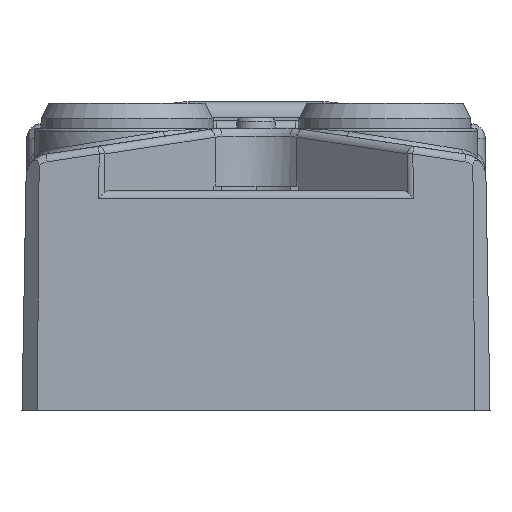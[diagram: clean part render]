
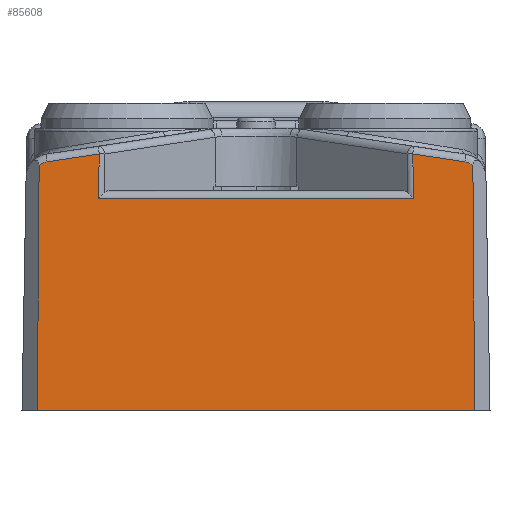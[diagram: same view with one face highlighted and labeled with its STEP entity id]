
A CAD part, front view. The second image highlights one B-rep face of the part: STEP entity #85608.
In plain terms, the highlighted planar face has unit normal (0, -1, 0.018).
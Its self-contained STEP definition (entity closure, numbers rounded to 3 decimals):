
#766 = CARTESIAN_POINT ( 'NONE',  ( -10.08, -32.983, 12.709 ) ) ;
#1306 = CARTESIAN_POINT ( 'NONE',  ( -13.874, -32.946, 14.811 ) ) ;
#4108 = LINE ( 'NONE', #37944, #82244 ) ;
#5079 = CARTESIAN_POINT ( 'NONE',  ( -13.359, -32.942, 15.052 ) ) ;
#6589 = CARTESIAN_POINT ( 'NONE',  ( 13.987, -33.219, -0.85 ) ) ;
#7695 = EDGE_CURVE ( 'NONE', #16056, #29733, #67330, .T. ) ;
#8063 = CARTESIAN_POINT ( 'NONE',  ( 10.08, -32.983, 12.709 ) ) ;
#9431 = DIRECTION ( 'NONE',  ( 0., -1., 0.017 ) ) ;
#11117 = ORIENTED_EDGE ( 'NONE', *, *, #7695, .T. ) ;
#11790 = B_SPLINE_CURVE_WITH_KNOTS ( 'NONE', 3,
 ( #45455, #25671, #72945, #5079 ),
 .UNSPECIFIED., .F., .F.,
 ( 4, 4 ),
 ( 0., 1. ),
 .UNSPECIFIED. ) ;
#12606 = EDGE_CURVE ( 'NONE', #58124, #27440, #50941, .T. ) ;
#12611 = FACE_OUTER_BOUND ( 'NONE', #72901, .T. ) ;
#12894 = CARTESIAN_POINT ( 'NONE',  ( 0., -33.219, -0.85 ) ) ;
#12983 = VERTEX_POINT ( 'NONE', #8063 ) ;
#14296 = B_SPLINE_CURVE_WITH_KNOTS ( 'NONE', 3,
 ( #63048, #23157, #30547, #23444 ),
 .UNSPECIFIED., .F., .F.,
 ( 4, 4 ),
 ( 0., 1. ),
 .UNSPECIFIED. ) ;
#15518 = CARTESIAN_POINT ( 'NONE',  ( -10.08, -32.983, 12.709 ) ) ;
#15628 = CARTESIAN_POINT ( 'NONE',  ( 14.155, -32.931, 15.657 ) ) ;
#15707 = ORIENTED_EDGE ( 'NONE', *, *, #76639, .T. ) ;
#16056 = VERTEX_POINT ( 'NONE', #42718 ) ;
#16653 = LINE ( 'NONE', #82905, #67346 ) ;
#16663 = ORIENTED_EDGE ( 'NONE', *, *, #73679, .T. ) ;
#16736 = VERTEX_POINT ( 'NONE', #1306 ) ;
#18577 = ORIENTED_EDGE ( 'NONE', *, *, #74724, .F. ) ;
#19537 = ORIENTED_EDGE ( 'NONE', *, *, #62516, .F. ) ;
#20490 = DIRECTION ( 'NONE',  ( 1., 0., 0. ) ) ;
#23157 = CARTESIAN_POINT ( 'NONE',  ( 13.549, -32.942, 15.023 ) ) ;
#23218 = VECTOR ( 'NONE', #20490, 1000. ) ;
#23444 = CARTESIAN_POINT ( 'NONE',  ( 13.874, -32.946, 14.811 ) ) ;
#24343 = CARTESIAN_POINT ( 'NONE',  ( -11.695, -32.937, 15.305 ) ) ;
#25671 = CARTESIAN_POINT ( 'NONE',  ( -13.731, -32.944, 14.938 ) ) ;
#27440 = VERTEX_POINT ( 'NONE', #50372 ) ;
#28811 = EDGE_CURVE ( 'NONE', #86128, #59544, #38056, .T. ) ;
#29733 = VERTEX_POINT ( 'NONE', #74037 ) ;
#30253 = CARTESIAN_POINT ( 'NONE',  ( 0., -32.983, 12.709 ) ) ;
#30547 = CARTESIAN_POINT ( 'NONE',  ( 13.731, -32.944, 14.938 ) ) ;
#33571 = VERTEX_POINT ( 'NONE', #766 ) ;
#35966 = DIRECTION ( 'NONE',  ( -0.007, 0.017, 1. ) ) ;
#37346 = CARTESIAN_POINT ( 'NONE',  ( -13.987, -33.219, -0.85 ) ) ;
#37944 = CARTESIAN_POINT ( 'NONE',  ( 10.03, -32.933, 15.558 ) ) ;
#38056 = LINE ( 'NONE', #12894, #23218 ) ;
#42718 = CARTESIAN_POINT ( 'NONE',  ( 13.359, -32.942, 15.052 ) ) ;
#43024 = DIRECTION ( 'NONE',  ( -1., 0., 0. ) ) ;
#43579 = EDGE_CURVE ( 'NONE', #12983, #33571, #81888, .T. ) ;
#43811 = DIRECTION ( 'NONE',  ( -1., 0., 0. ) ) ;
#45455 = CARTESIAN_POINT ( 'NONE',  ( -13.874, -32.946, 14.811 ) ) ;
#49272 = VECTOR ( 'NONE', #59719, 1000. ) ;
#49840 = ORIENTED_EDGE ( 'NONE', *, *, #43579, .T. ) ;
#50044 = VECTOR ( 'NONE', #76043, 1000. ) ;
#50074 = EDGE_CURVE ( 'NONE', #29733, #12983, #4108, .T. ) ;
#50372 = CARTESIAN_POINT ( 'NONE',  ( -13.359, -32.942, 15.052 ) ) ;
#50941 = LINE ( 'NONE', #24343, #76310 ) ;
#51105 = DIRECTION ( 'NONE',  ( -0.989, 0.003, 0.15 ) ) ;
#51780 = ORIENTED_EDGE ( 'NONE', *, *, #80799, .T. ) ;
#53253 = DIRECTION ( 'NONE',  ( 0.017, -0.017, -1. ) ) ;
#53466 = CARTESIAN_POINT ( 'NONE',  ( 13.874, -32.946, 14.811 ) ) ;
#55715 = VECTOR ( 'NONE', #51105, 1000. ) ;
#58124 = VERTEX_POINT ( 'NONE', #71358 ) ;
#58526 = ORIENTED_EDGE ( 'NONE', *, *, #50074, .T. ) ;
#59544 = VERTEX_POINT ( 'NONE', #6589 ) ;
#59653 = LINE ( 'NONE', #15518, #50044 ) ;
#59719 = DIRECTION ( 'NONE',  ( -0.007, -0.017, -1. ) ) ;
#60009 = CARTESIAN_POINT ( 'NONE',  ( -13.874, -32.946, 14.811 ) ) ;
#60808 = VECTOR ( 'NONE', #43811, 1000. ) ;
#62516 = EDGE_CURVE ( 'NONE', #16056, #80985, #14296, .T. ) ;
#63048 = CARTESIAN_POINT ( 'NONE',  ( 13.359, -32.942, 15.052 ) ) ;
#63201 = ORIENTED_EDGE ( 'NONE', *, *, #12606, .T. ) ;
#64808 = ORIENTED_EDGE ( 'NONE', *, *, #28811, .T. ) ;
#67274 = LINE ( 'NONE', #60009, #49272 ) ;
#67330 = LINE ( 'NONE', #84161, #55715 ) ;
#67346 = VECTOR ( 'NONE', #35966, 1000. ) ;
#69922 = PLANE ( 'NONE',  #80266 ) ;
#71358 = CARTESIAN_POINT ( 'NONE',  ( -10.03, -32.933, 15.558 ) ) ;
#72901 = EDGE_LOOP ( 'NONE', ( #11117, #58526, #49840, #51780, #63201, #18577, #15707, #64808, #16663, #19537 ) ) ;
#72945 = CARTESIAN_POINT ( 'NONE',  ( -13.55, -32.942, 15.023 ) ) ;
#73679 = EDGE_CURVE ( 'NONE', #59544, #80985, #16653, .T. ) ;
#74037 = CARTESIAN_POINT ( 'NONE',  ( 10.03, -32.933, 15.558 ) ) ;
#74724 = EDGE_CURVE ( 'NONE', #16736, #27440, #11790, .T. ) ;
#76043 = DIRECTION ( 'NONE',  ( 0.017, 0.017, 1. ) ) ;
#76310 = VECTOR ( 'NONE', #77211, 1000. ) ;
#76639 = EDGE_CURVE ( 'NONE', #16736, #86128, #67274, .T. ) ;
#77211 = DIRECTION ( 'NONE',  ( -0.989, -0.003, -0.15 ) ) ;
#80266 = AXIS2_PLACEMENT_3D ( 'NONE', #15628, #9431, #43024 ) ;
#80799 = EDGE_CURVE ( 'NONE', #33571, #58124, #59653, .T. ) ;
#80985 = VERTEX_POINT ( 'NONE', #53466 ) ;
#81888 = LINE ( 'NONE', #30253, #60808 ) ;
#82244 = VECTOR ( 'NONE', #53253, 1000. ) ;
#82905 = CARTESIAN_POINT ( 'NONE',  ( 13.987, -33.219, -0.85 ) ) ;
#84161 = CARTESIAN_POINT ( 'NONE',  ( 11.695, -32.937, 15.305 ) ) ;
#85608 = ADVANCED_FACE ( 'NONE', ( #12611 ), #69922, .T. ) ;
#86128 = VERTEX_POINT ( 'NONE', #37346 ) ;
